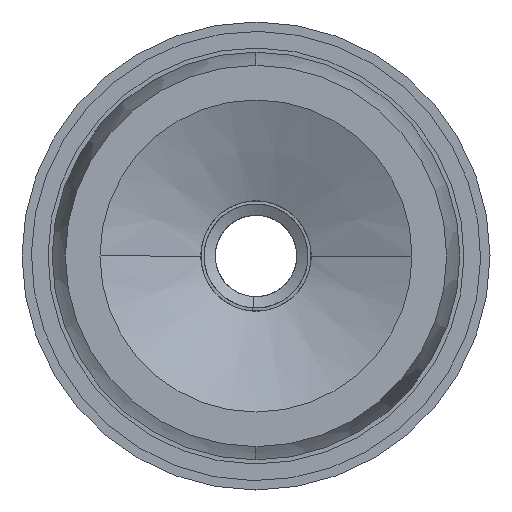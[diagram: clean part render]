
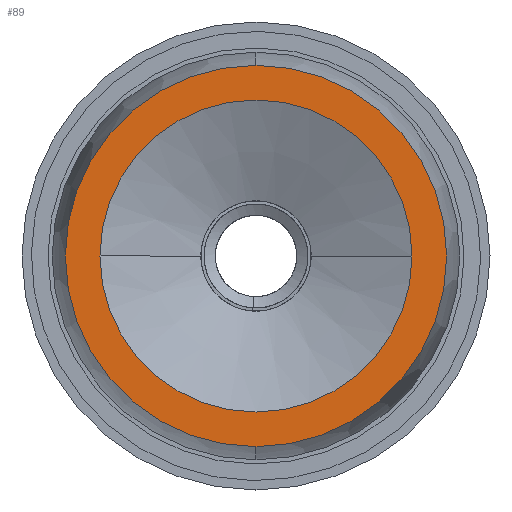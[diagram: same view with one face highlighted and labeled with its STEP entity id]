
A CAD part, left-side view. The second image highlights one B-rep face of the part: STEP entity #89.
In plain terms, the highlighted planar face has unit normal (-1, 0, 0).
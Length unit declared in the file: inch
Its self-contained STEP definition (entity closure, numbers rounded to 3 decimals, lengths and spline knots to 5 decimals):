
#89 = ADVANCED_FACE ( 'NONE', ( #509, #713 ), #2048, .F. ) ;
#324 = AXIS2_PLACEMENT_3D ( 'NONE', #2131, #2096, #2078 ) ;
#470 = DIRECTION ( 'NONE',  ( 0., 0., 1. ) ) ;
#509 = FACE_OUTER_BOUND ( 'NONE', #954, .T. ) ;
#560 = EDGE_LOOP ( 'NONE', ( #1136, #1537 ) ) ;
#591 = AXIS2_PLACEMENT_3D ( 'NONE', #2477, #2475, #2466 ) ;
#713 = FACE_BOUND ( 'NONE', #560, .T. ) ;
#932 = EDGE_CURVE ( 'NONE', #1665, #957, #1080, .T. ) ;
#954 = EDGE_LOOP ( 'NONE', ( #1333, #2844 ) ) ;
#957 = VERTEX_POINT ( 'NONE', #1890 ) ;
#993 = DIRECTION ( 'NONE',  ( -1., 0., 0. ) ) ;
#1009 = CARTESIAN_POINT ( 'NONE',  ( -2.25, 0., 0. ) ) ;
#1080 = CIRCLE ( 'NONE', #591, 0.375 ) ;
#1081 = CARTESIAN_POINT ( 'NONE',  ( -2.25, 0., 0. ) ) ;
#1093 = DIRECTION ( 'NONE',  ( 0., 1., 0. ) ) ;
#1136 = ORIENTED_EDGE ( 'NONE', *, *, #932, .T. ) ;
#1182 = CIRCLE ( 'NONE', #3258, 0.45825 ) ;
#1223 = VERTEX_POINT ( 'NONE', #1570 ) ;
#1294 = CIRCLE ( 'NONE', #3277, 0.375 ) ;
#1333 = ORIENTED_EDGE ( 'NONE', *, *, #3267, .T. ) ;
#1537 = ORIENTED_EDGE ( 'NONE', *, *, #3194, .T. ) ;
#1570 = CARTESIAN_POINT ( 'NONE',  ( -2.25, 0., 0.45825 ) ) ;
#1613 = CIRCLE ( 'NONE', #324, 0.45825 ) ;
#1665 = VERTEX_POINT ( 'NONE', #3451 ) ;
#1890 = CARTESIAN_POINT ( 'NONE',  ( -2.25, -0.375, 0. ) ) ;
#1914 = EDGE_CURVE ( 'NONE', #3096, #1223, #1613, .T. ) ;
#2041 = DIRECTION ( 'NONE',  ( 1., 0., 0. ) ) ;
#2048 = PLANE ( 'NONE',  #2374 ) ;
#2078 = DIRECTION ( 'NONE',  ( 0., 0., 1. ) ) ;
#2096 = DIRECTION ( 'NONE',  ( -1., 0., 0. ) ) ;
#2131 = CARTESIAN_POINT ( 'NONE',  ( -2.25, 0., 0. ) ) ;
#2232 = CARTESIAN_POINT ( 'NONE',  ( -2.25, 0.5625, 0. ) ) ;
#2237 = DIRECTION ( 'NONE',  ( 1., 0., 0. ) ) ;
#2240 = DIRECTION ( 'NONE',  ( 0., 0., -1. ) ) ;
#2374 = AXIS2_PLACEMENT_3D ( 'NONE', #2232, #2237, #2240 ) ;
#2466 = DIRECTION ( 'NONE',  ( 0., 1., 0. ) ) ;
#2475 = DIRECTION ( 'NONE',  ( 1., 0., 0. ) ) ;
#2477 = CARTESIAN_POINT ( 'NONE',  ( -2.25, 0., 0. ) ) ;
#2699 = CARTESIAN_POINT ( 'NONE',  ( -2.25, 0., -0.45825 ) ) ;
#2844 = ORIENTED_EDGE ( 'NONE', *, *, #1914, .T. ) ;
#3096 = VERTEX_POINT ( 'NONE', #2699 ) ;
#3194 = EDGE_CURVE ( 'NONE', #957, #1665, #1294, .T. ) ;
#3258 = AXIS2_PLACEMENT_3D ( 'NONE', #1009, #993, #470 ) ;
#3267 = EDGE_CURVE ( 'NONE', #1223, #3096, #1182, .T. ) ;
#3277 = AXIS2_PLACEMENT_3D ( 'NONE', #1081, #2041, #1093 ) ;
#3451 = CARTESIAN_POINT ( 'NONE',  ( -2.25, 0.375, 0. ) ) ;
